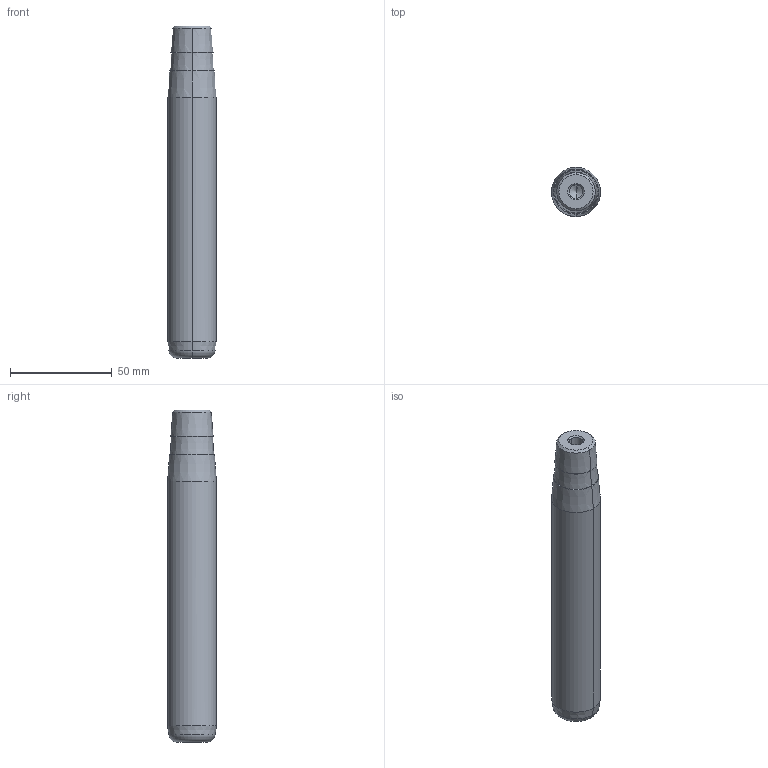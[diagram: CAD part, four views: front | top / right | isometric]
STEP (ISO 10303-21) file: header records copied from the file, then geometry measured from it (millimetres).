
FILE_DESCRIPTION(('CATIA V5 STEP Exchange'),'2;1');
FILE_NAME('C:\Users\Utente\Desktop\IO LAVORO\3D X SITO CF\X SITO\722\722-24x140x163.stp','2021-01-09T08:36:46+00:00',('none'),('none'),'CATIA Version 5 Release 20 GA (IN-10)','CATIA V5 STEP AP203','none');
FILE_SCHEMA(('CONFIG_CONTROL_DESIGN'));
Length unit declared in the file: millimetre
Products named in the file (1): 722-24x140x163
Bounding box: 24 x 24 x 163 mm (x, y, z)
Volume: 67975.4 mm3; surface area: 13614.3 mm2
Topology: 1 solids, 1 shells, 32 faces, 98 edges, 66 vertices
Faces by surface type: cone 22, cylinder 6, plane 2, torus 2
Entity records: 1166 total; most frequent: CARTESIAN_POINT 279, ORIENTED_EDGE 188, DIRECTION 148, EDGE_CURVE 94, AXIS2_PLACEMENT_3D 89, VERTEX_POINT 66, CIRCLE 56, EDGE_LOOP 34
